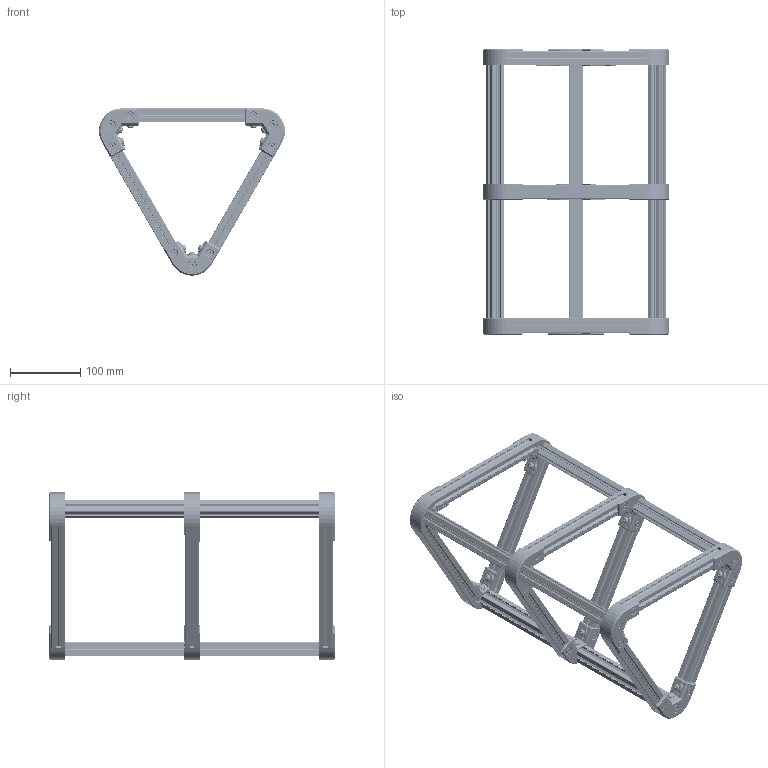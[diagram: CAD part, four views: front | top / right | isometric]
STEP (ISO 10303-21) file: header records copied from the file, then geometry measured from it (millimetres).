
FILE_DESCRIPTION (( 'STEP AP214' ), '1' );
FILE_NAME ('Ñáîðêà.STEP', '2023-03-09T11:51:55', ( '' ), ( '' ), 'SwSTEP 2.0', 'SolidWorks 2020', '' );
FILE_SCHEMA (( 'AUTOMOTIVE_DESIGN' ));
Length unit declared in the file: millimetre
Products named in the file (10): 3D-2020-60-Type1.step; 栖闉罻; Âèíò ïîëóñôåðà ISO 7380_Œ5å10; 3D-2020-60-Type2; Âèíò-ïîò.-øåñòèãð.-ÃÎÑÒ-Ð-ÈÑÎ-10642-2012-DIN-7991_Œ6x16; 5002 Ïàç6, Ì5, ñåðèÿ 20_„«ï ç¥àâ¥¦ ; OB-2020 Ïðîôèëü 20õ20 ìì, ïàç 6 ìì (Àíîäèðîâàííûé)_L=400 ¬¬; OB-2020 Ïðîôèëü 20õ20 ìì, ïàç 6 ìì (Àíîäèðîâàííûé)_L=200 ¬¬; Âèíò-ïîò.-øåñòèãð.-ÃÎÑÒ-Ð-ÈÑÎ-10642-2012-DIN-7991_Œ5x10; Øàéáà óâåëè÷åííàÿ ÃÎÑÒ 6958-78_Œ5 ƒŽ‘’ 6958-78
Assembly tree (144 placements, depth 2):
  栖闉罻
    3D-2020-60-Type1.step  x6
    OB-2020 Ïðîôèëü 20õ20 ìì, ïàç 6 ìì (Àíîäèðîâàííûé)_L=200 ¬¬  x9
    OB-2020 Ïðîôèëü 20õ20 ìì, ïàç 6 ìì (Àíîäèðîâàííûé)_L=400 ¬¬  x3
    Øàéáà óâåëè÷åííàÿ ÃÎÑÒ 6958-78_Œ5 ƒŽ‘’ 6958-78  x27
    Âèíò ïîëóñôåðà ISO 7380_Œ5å10  x27
    5002 Ïàç6, Ì5, ñåðèÿ 20_„«ï ç¥àâ¥¦   x45
    3D-2020-60-Type2  x3
    Âèíò-ïîò.-øåñòèãð.-ÃÎÑÒ-Ð-ÈÑÎ-10642-2012-DIN-7991_Œ5x10  x18
    Âèíò-ïîò.-øåñòèãð.-ÃÎÑÒ-Ð-ÈÑÎ-10642-2012-DIN-7991_Œ6x16  x6
Bounding box: 264.75 x 407 x 237.96 mm (x, y, z)
Volume: 726297.2 mm3; surface area: 679856.4 mm2
Topology: 663 solids, 663 shells, 23550 faces, 57567 edges, 33156 vertices
Faces by surface type: plane 7731, cylinder 7032, bspline 3825, sphere 2394, torus 1650, cone 918
Entity records: 37715 total; most frequent: CARTESIAN_POINT 10608, DIRECTION 5303, ORIENTED_EDGE 5190, EDGE_CURVE 2595, AXIS2_PLACEMENT_3D 1899, VERTEX_POINT 1611, LINE 1505, VECTOR 1505
